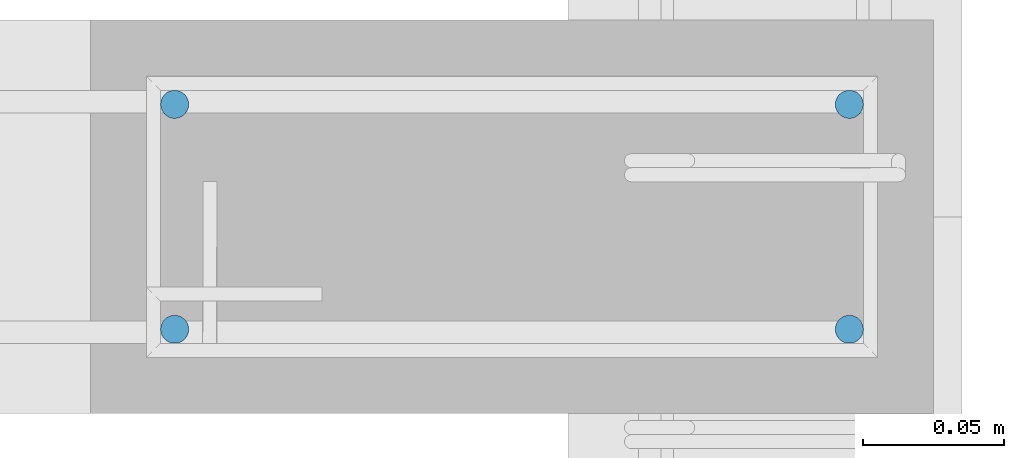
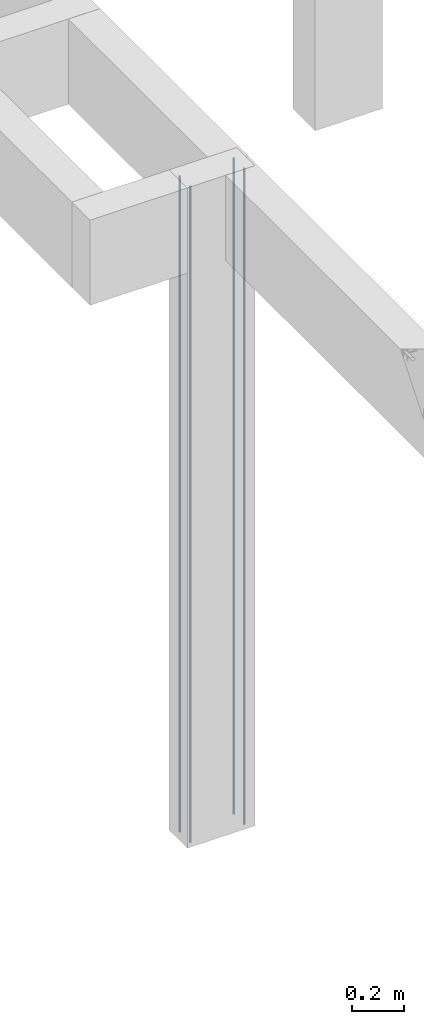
# One storey, part 72 of 236: 4 reinforcing bars.
"""IFC4 building model written with IfcOpenShell, lengths in centimetres."""

from ifc_helpers import new_model, entity, si_unit, derived_unit, frame, origin_with_axes, place, context, project, spatial, element, save


model = new_model("IFC4")

# Units and contexts
model_context = context("Model", 3, precision=1e-05, world=origin_with_axes(), identifier="Body")
ifc_project = project(units=[si_unit("LENGTHUNIT", "METRE", prefix="CENTI"), si_unit("VOLUMEUNIT", "CUBIC_METRE"), si_unit("AREAUNIT", "SQUARE_METRE"), si_unit("POWERUNIT", "WATT"), si_unit("LUMINOUSFLUXUNIT", "LUMEN"), si_unit("ELECTRICCURRENTUNIT", "AMPERE"), si_unit("PRESSUREUNIT", "PASCAL", prefix="KILO"), si_unit("MASSUNIT", "GRAM", prefix="KILO"), si_unit("PLANEANGLEUNIT", "RADIAN"), derived_unit("VOLUMETRICFLOWRATEUNIT", [(si_unit("LENGTHUNIT", "METRE"), 3), (si_unit("TIMEUNIT", "SECOND"), -1)])], contexts=[model_context])

# Site, building, storey
site_placement = place(None, frame((-4000.0, 0.0, 0.0), z_axis=(0.0, 0.0, 1.0), x_axis=(1.0, 0.0, 0.0)))
site = spatial("IfcSite", under=ifc_project, at=site_placement, Name="PADRÃO")
building_placement = place(site_placement, frame((0.0, 0.0, -14.0)))
building = spatial("IfcBuilding", under=site, at=building_placement, Name="CRECHE PRÉ-ESCOLA TIPO 2")
placement_1 = place(building_placement, origin_with_axes())
placement_2 = place(placement_1, frame((0.0, 0.0, 30.0), z_axis=(0.0, 0.0, 1.0), x_axis=(1.0, 0.0, 0.0)))
storey_placement = place(placement_2, frame((0.0, 0.0, 310.0), z_axis=(0.0, 0.0, 1.0), x_axis=(1.0, 0.0, 0.0)))
storey = spatial("IfcBuildingStorey", under=building, at=storey_placement, Name="TERREO", CompositionType="ELEMENT", Elevation=326.0)

# Reinforcing bars
for number, where, z_axis, x_axis, name in (
    (1, (1121.72, 3072.5, -2.0), (0.0, 0.0, 1.0), (1.0, 0.0, 0.0), "P58 - Longitudinal"),
    (2, (1097.72, 3080.5, -2.0), (0.0, 0.0, 1.0), (1.0, 0.0, 0.0), "P58 - Longitudinal"),
    (3, (1121.72, 3080.5, -2.0), (0.0, 0.0, 1.0), (1.0, 0.0, 0.0), "P58 - Longitudinal"),
    (4, (1097.72, 3072.5, -2.0), (0.0, 0.0, 1.0), (1.0, 0.0, 0.0), "P58 - Longitudinal"),
):
    element("IfcReinforcingBar", number, at=place(storey_placement, frame(where, z_axis=z_axis, x_axis=x_axis)), inside=storey, Name=name, BarLength=0.0, CrossSectionArea=7.853981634e-05, NominalDiameter=1.0, PredefinedType="MAIN", context=model_context, shape_type="AdvancedSweptSolid", body=[
        entity("IfcSweptDiskSolid", entity("IfcCompositeCurve", [entity("IfcCompositeCurveSegment", "CONTINUOUS", True, entity("IfcPolyline", [entity("IfcCartesianPoint", [0.0, 0.0, -308.0]), entity("IfcCartesianPoint", [0.0, 0.0, 0.0])]))], False), 0.5),
    ])

save(model, "model.ifc")
